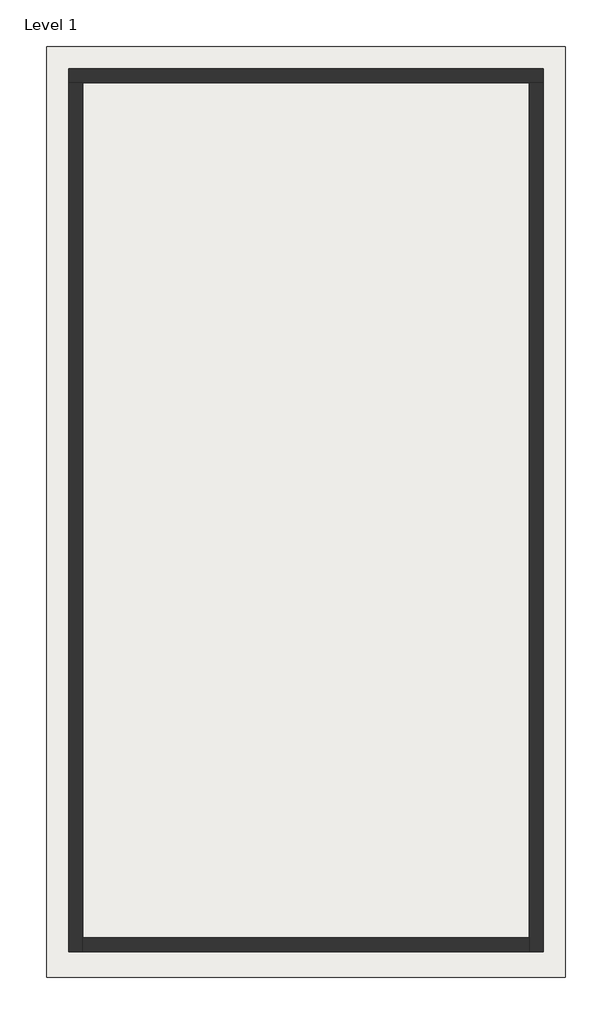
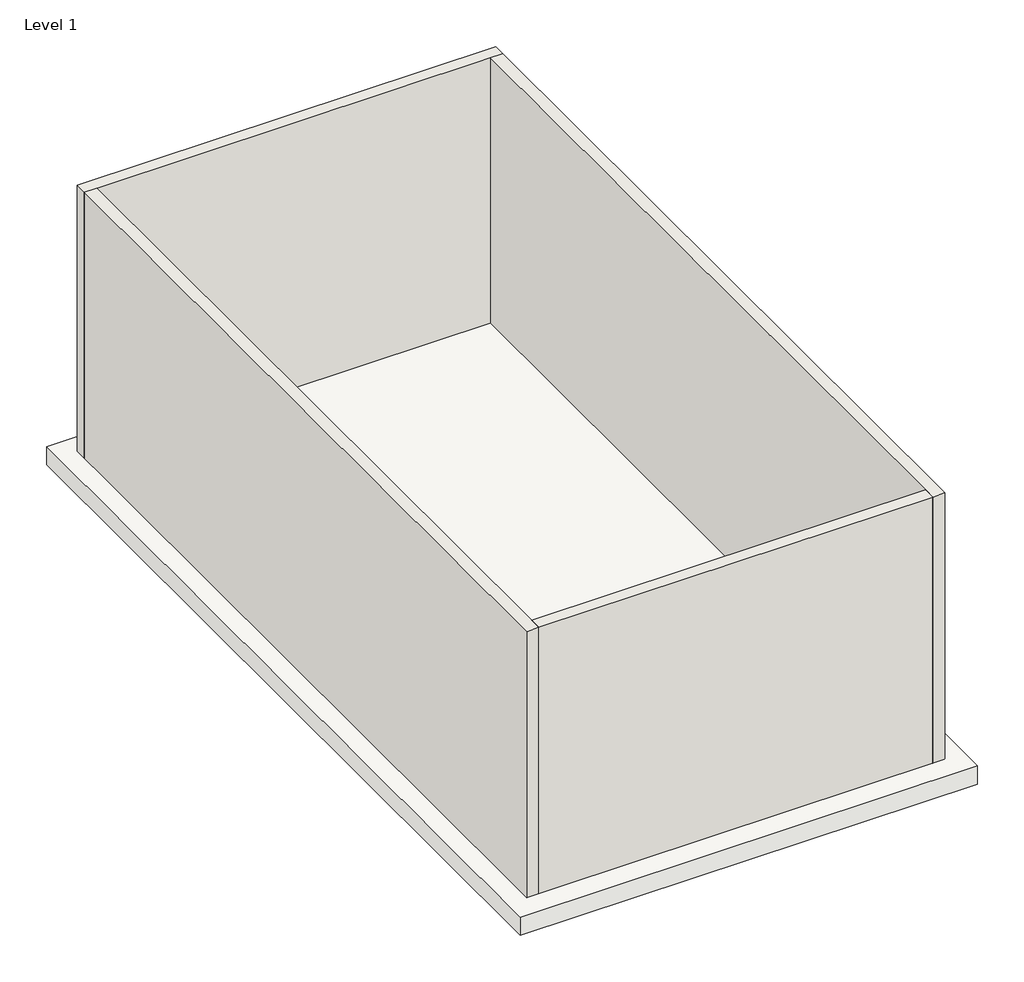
# One storey: 4 walls, 2 slabs.
"""IFC4 building model written with IfcOpenShell, lengths in millimetres."""

from ifc_helpers import new_model, si_unit, frame, origin, origin_with_axes, place, context, project, spatial, polyline, outline, extrude, faceted_brep, element, save

model = new_model("IFC4")

# Units and contexts
model_context = context("Model", 3, world=origin())
ifc_project = project(units=[si_unit("LENGTHUNIT", "METRE", prefix="MILLI")], contexts=[model_context])

# Site, building, storey
site = spatial("IfcSite", under=ifc_project)
building = spatial("IfcBuilding", under=site)
storey = spatial("IfcBuildingStorey", under=building, Name="Level 1", Elevation=0.0)

# Slabs
placement = place(None, origin())
element("IfcSlab", 1, ObjectType="Carpet", at=placement, inside=storey, context=model_context, shape_type="SweptSolid", body=[
    extrude(outline(polyline([(-7592.9186437, 11995.9222731), (-7592.9186437, 156.8566481), (-13778.9842687, 156.8566481), (-13778.9842687, 11995.9222731), (-7592.9186437, 11995.9222731)])), origin_with_axes(), (0.0, 0.0, 1.0), 12.7),
])
element("IfcSlab", 2, ObjectType="Generic - 12\" 2", at=placement, inside=storey, context=model_context, shape_type="SweptSolid", body=[
    extrude(outline(polyline([(-7094.4436437, 12494.3972731), (-7094.4436437, -392.7224144), (-14277.4592687, -392.7224144), (-14277.4592687, 12494.3972731), (-7094.4436437, 12494.3972731)])), frame((0.0, 0.0, -304.8), z_axis=(0.0, 0.0, 1.0), x_axis=(1.0, 0.0, 0.0)), (0.0, 0.0, 1.0), 304.8),
])

# Walls
element("IfcWall", 3, ObjectType="Generic - 8\" Masonry", at=placement, inside=storey, context=model_context, shape_type="Brep", body=[
    faceted_brep([(-13972.6592687, 11995.9222731, 0.0), (-13778.9842687, 11995.9222731, 0.0), (-7592.9186437, 11995.9222731, 0.0), (-7399.2436437, 11995.9222731, 0.0), (-7399.2436437, 11995.9222731, 4419.6), (-7592.9186437, 11995.9222731, 4419.6), (-13778.9842687, 11995.9222731, 4419.6), (-13972.6592687, 11995.9222731, 4419.6), (-13972.6592687, 12189.5972731, 0.0), (-13972.6592687, 12189.5972731, 4419.6), (-7399.2436437, 12189.5972731, 4419.6), (-7399.2436437, 12189.5972731, 0.0)], [[[0, 1, 2, 3, 4, 5, 6, 7]], [[8, 9, 10, 11]], [[3, 2, 1, 0, 8, 11]], [[4, 3, 11, 10]], [[0, 7, 9, 8]], [[7, 6, 5, 4, 10, 9]]]),
])
element("IfcWall", 4, ObjectType="Generic - 8\" Masonry", at=placement, inside=storey, context=model_context, shape_type="Brep", body=[
    faceted_brep([(-7592.9186437, 11995.9222731, 0.0), (-7592.9186437, 156.8566481, 0.0), (-7592.9186437, -36.8183519, 0.0), (-7592.9186437, -36.8183519, 4419.6), (-7592.9186437, 156.8566481, 4419.6), (-7592.9186437, 11995.9222731, 4419.6), (-7399.2436437, 11995.9222731, 0.0), (-7399.2436437, 11995.9222731, 4419.6), (-7399.2436437, -36.8183519, 4419.6), (-7399.2436437, -36.8183519, 0.0)], [[[0, 1, 2, 3, 4, 5]], [[6, 7, 8, 9]], [[2, 1, 0, 6, 9]], [[0, 5, 7, 6]], [[5, 4, 3, 8, 7]], [[3, 2, 9, 8]]]),
])
element("IfcWall", 5, ObjectType="Generic - 8\" Masonry", at=placement, inside=storey, context=model_context, shape_type="Brep", body=[
    faceted_brep([(-13972.6592687, 11995.9222731, 0.0), (-13972.6592687, -36.8183519, 0.0), (-13972.6592687, -36.8183519, 4419.6), (-13972.6592687, 11995.9222731, 4419.6), (-13778.9842687, 11995.9222731, 0.0), (-13778.9842687, 11995.9222731, 4419.6), (-13778.9842687, 156.8566481, 4419.6), (-13778.9842687, -36.8183519, 4419.6), (-13778.9842687, -36.8183519, 0.0), (-13778.9842687, 156.8566481, 0.0)], [[[0, 1, 2, 3]], [[4, 5, 6, 7, 8, 9]], [[1, 0, 4, 9, 8]], [[0, 3, 5, 4]], [[3, 2, 7, 6, 5]], [[2, 1, 8, 7]]]),
])
element("IfcWall", 6, ObjectType="Generic - 8\" Masonry", at=placement, inside=storey, context=model_context, shape_type="SweptSolid", body=[
    extrude(outline(polyline([(-7592.9186437, -36.8183519), (-13778.9842687, -36.8183519), (-13778.9842687, 156.8566481), (-7592.9186437, 156.8566481), (-7592.9186437, -36.8183519)])), origin_with_axes(), (0.0, 0.0, 1.0), 4419.6),
])

save(model, "model.ifc")
